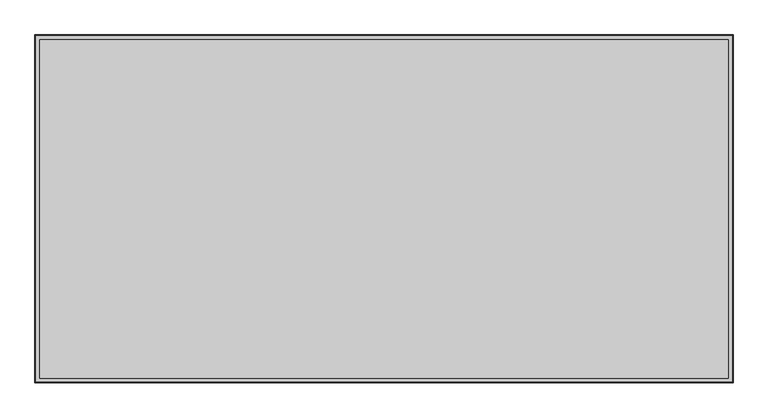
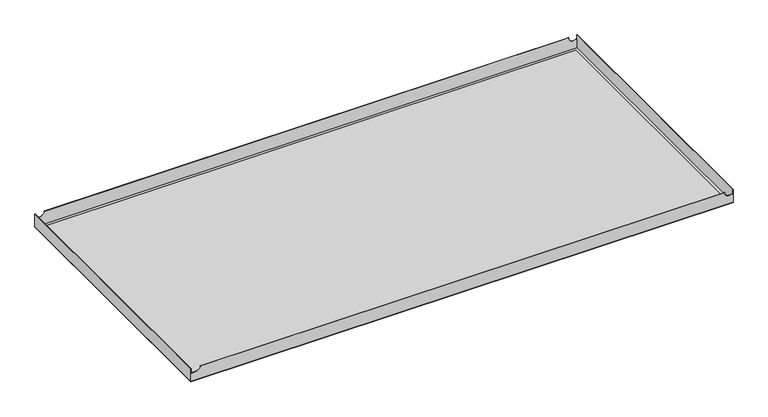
"""IFC4 building model written with IfcOpenShell, lengths in millimetres: proxy geometry, durlum_S1.12KD_panel : durlum_S1.12KD_panel."""

from ifc_helpers import new_model, si_unit, frame, origin, origin_with_axes, place, context, project, spatial, polyline, outline, extrude, faceted_brep, source, transform, mapped, element, save


def generic_models_a15f8cf3(model_context):
    return source(origin(), model_context, "Body", "SolidModel", [
        faceted_brep([(-600.0, 299.0, 30.0), (-600.0, -299.0, 30.0), (-599.4, -299.0, 30.0), (-599.4, 299.0, 30.0), (600.0, -299.0, 30.0), (600.0, 299.0, 30.0), (599.4, 299.0, 30.0), (599.4, -299.0, 30.0), (-579.4, 299.0, 30.0), (-579.4, 298.4, 30.0), (581.4, 298.4, 30.0), (581.4, 299.0, 30.0), (-579.4, -298.4, 30.0), (-579.4, -299.0, 30.0), (581.4, -299.0, 30.0), (581.4, -298.4, 30.0), (600.0, 299.0, 0.6), (600.0, -299.0, 0.6), (-600.0, -299.0, 0.6), (-600.0, 299.0, 0.6), (599.4, 298.4, 0.6), (-599.4, 298.4, 0.6), (-599.4, -298.4, 0.6), (599.4, -298.4, 0.6), (-599.4, 299.0, 20.1669893), (-586.6658218, 299.0, 20.1669893), (-579.4, 299.0, 25.4328111), (581.4, 299.0, 25.4469988), (586.6800094, 299.0, 20.1669893), (599.4, 299.0, 20.1669893), (599.4, -299.0, 20.1669893), (586.6800094, -299.0, 20.1669893), (581.4, -299.0, 25.4469988), (-579.4, -299.0, 25.4328111), (-586.6658218, -299.0, 20.1669893), (-599.4, -299.0, 20.1669893), (599.4, 298.4, 20.1669893), (599.4, -298.4, 20.1669893), (-599.4, -298.4, 20.1669893), (-586.6658218, -298.4, 20.1669893), (-579.4, -298.4, 25.4328111), (581.4, -298.4, 25.4469988), (586.6800094, -298.4, 20.1669893), (-599.4, 298.4, 20.1669893), (586.6800094, 298.4, 20.1669893), (581.4, 298.4, 25.4469988), (-579.4, 298.4, 25.4328111), (-586.6658218, 298.4, 20.1669893)], [[[0, 1, 2, 3]], [[4, 5, 6, 7]], [[8, 9, 10, 11]], [[12, 13, 14, 15]], [[16, 17, 18, 19], [20, 21, 22, 23]], [[16, 19, 0, 3, 24, 25, 26, 8, 11, 27, 28, 29, 6, 5]], [[1, 0, 19, 18]], [[18, 17, 4, 7, 30, 31, 32, 14, 13, 33, 34, 35, 2, 1]], [[5, 4, 17, 16]], [[6, 29, 36, 20, 23, 37, 30, 7]], [[23, 22, 38, 39, 40, 12, 15, 41, 42, 37]], [[22, 21, 43, 24, 3, 2, 35, 38]], [[21, 20, 36, 44, 45, 10, 9, 46, 47, 43]], [[38, 35, 34, 39]], [[24, 43, 47, 25]], [[39, 34, 33, 40]], [[25, 47, 46, 26]], [[40, 33, 13, 12]], [[26, 46, 9, 8]], [[44, 28, 27, 45]], [[31, 42, 41, 32]], [[32, 41, 15, 14]], [[45, 27, 11, 10]], [[36, 29, 28, 44]], [[30, 37, 42, 31]]]),
        extrude(outline(polyline([(592.0, 291.0), (592.0, -291.0), (-592.0, -291.0), (-592.0, 291.0), (592.0, 291.0)])), frame((0.0, 0.0, 0.6), z_axis=(0.0, 0.0, 1.0), x_axis=(1.0, 0.0, 0.0)), (0.0, 0.0, 1.0), 0.6),
        extrude(outline(polyline([(600.0, 299.0), (600.0, -299.0), (-600.0, -299.0), (-600.0, 299.0), (600.0, 299.0)]), holes=[polyline([(592.0, 291.0), (-592.0, 291.0), (-592.0, -291.0), (592.0, -291.0), (592.0, 291.0)])]), origin_with_axes(), (0.0, 0.0, 1.0), 0.6),
        extrude(outline(polyline([(592.0, 291.0), (592.0, -291.0), (-592.0, -291.0), (-592.0, 291.0), (592.0, 291.0)])), origin_with_axes(), (0.0, 0.0, 1.0), 0.6),
    ])


if __name__ == "__main__":
    model = new_model("IFC4")
    model_context = context("Model", 3, world=origin())
    ifc_project = project(units=[si_unit("LENGTHUNIT", "METRE", prefix="MILLI")], contexts=[model_context])
    site = spatial("IfcSite", under=ifc_project)
    building = spatial("IfcBuilding", under=site)
    placement = place(None, origin())
    generic_models_shape = generic_models_a15f8cf3(model_context)
    element("IfcBuildingElementProxy", 1, Name="durlum_S1.12KD_panel : durlum_S1.12KD_panel", ObjectType="durlum_S1.12KD_panel : durlum_S1.12KD_panel", at=placement, inside=building, context=model_context, shape_type="MappedRepresentation", body=[
        mapped(generic_models_shape, transform((0.0, 0.0, 0.0), x_axis=(1.0, 0.0, 0.0), y_axis=(0.0, 1.0, 0.0), z_axis=(0.0, 0.0, 1.0))),
    ])
    save(model, "model.ifc")
